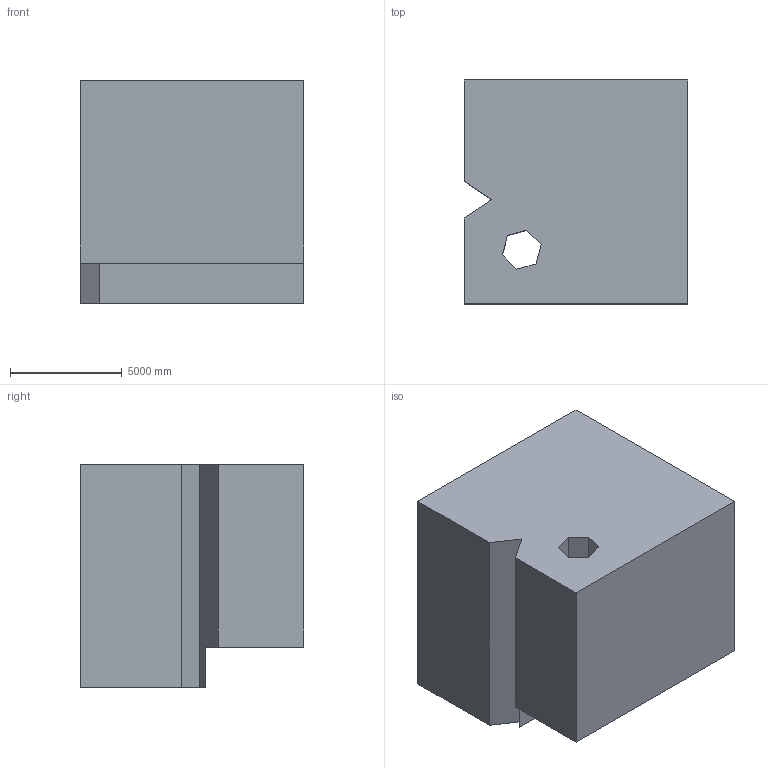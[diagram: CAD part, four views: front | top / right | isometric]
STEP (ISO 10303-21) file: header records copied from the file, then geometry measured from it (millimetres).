
FILE_DESCRIPTION (( 'STEP AP203' ), '1' );
FILE_NAME ('127.STEP', '2022-09-06T13:20:15', ( 'user' ), ( '' ), 'SwSTEP 2.0', 'SolidWorks 2021', '' );
FILE_SCHEMA (( 'CONFIG_CONTROL_DESIGN' ));
Length unit declared in the file: centimetre
Products named in the file (1): 127
Bounding box: 10000 x 10000 x 10000 mm (x, y, z)
Volume: 892947732682.8 mm3; surface area: 632525968.1 mm2
Topology: 1 solids, 1 shells, 17 faces, 45 edges, 30 vertices
Faces by surface type: plane 17
Entity records: 600 total; most frequent: CARTESIAN_POINT 93, ORIENTED_EDGE 90, DIRECTION 81, VECTOR 45, EDGE_CURVE 45, LINE 45, VERTEX_POINT 30, EDGE_LOOP 19
